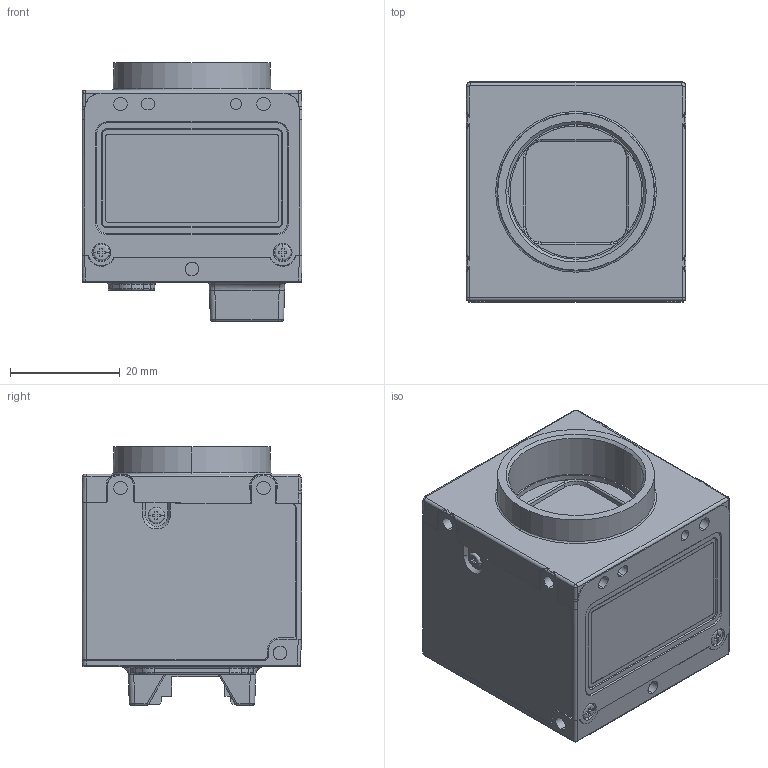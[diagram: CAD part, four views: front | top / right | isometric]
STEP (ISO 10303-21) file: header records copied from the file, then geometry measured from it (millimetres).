
FILE_DESCRIPTION (( 'STEP AP203' ), '1' );
FILE_NAME ('DU657M-1503150716.STEP', '2015-09-29T01:46:08', ( 'M-CAD25' ), ( 'Toshiba' ), 'SwSTEP 2.0', 'SolidWorks 2012', '' );
FILE_SCHEMA (( 'CONFIG_CONTROL_DESIGN' ));
Length unit declared in the file: millimetre
Products named in the file (1): DU657M-1503150716
Bounding box: 40 x 40 x 47 mm (x, y, z)
Volume: 54127.2 mm3; surface area: 13492.7 mm2
Topology: 2 solids, 9 shells, 994 faces, 2596 edges, 1637 vertices
Faces by surface type: plane 510, cylinder 288, bspline 147, cone 21, torus 18, sphere 10
Entity records: 34853 total; most frequent: CARTESIAN_POINT 11737, ORIENTED_EDGE 5156, DIRECTION 4396, EDGE_CURVE 2578, VERTEX_POINT 1637, LINE 1532, VECTOR 1532, AXIS2_PLACEMENT_3D 1432
